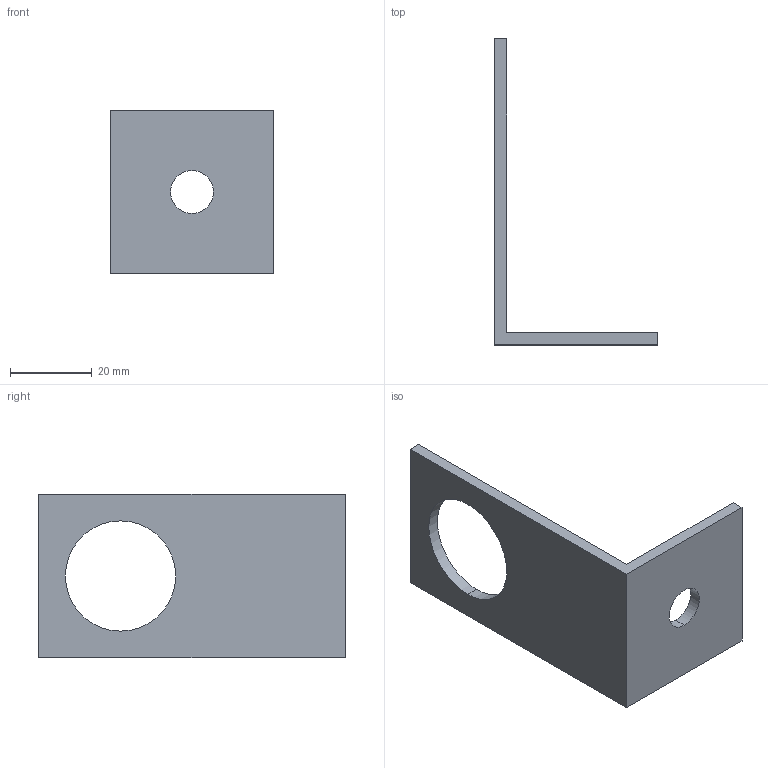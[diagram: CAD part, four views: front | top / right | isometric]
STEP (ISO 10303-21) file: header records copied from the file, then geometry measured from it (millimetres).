
FILE_DESCRIPTION (( 'STEP AP203' ), '1' );
FILE_NAME ('Silvent 3372.STEP', '2008-11-10T10:02:47', ( ' ' ), ( ' ' ), 'SwSTEP 2.0', 'SolidWorks 2006303', '' );
FILE_SCHEMA (( 'CONFIG_CONTROL_DESIGN' ));
Length unit declared in the file: millimetre
Products named in the file (1): Silvent 3372
Bounding box: 40 x 75 x 40 mm (x, y, z)
Volume: 11462.6 mm3; surface area: 8907.1 mm2
Topology: 1 solids, 1 shells, 12 faces, 30 edges, 20 vertices
Faces by surface type: plane 8, cylinder 4
Entity records: 447 total; most frequent: DIRECTION 64, CARTESIAN_POINT 63, ORIENTED_EDGE 60, EDGE_CURVE 30, VECTOR 22, LINE 22, AXIS2_PLACEMENT_3D 21, VERTEX_POINT 20
